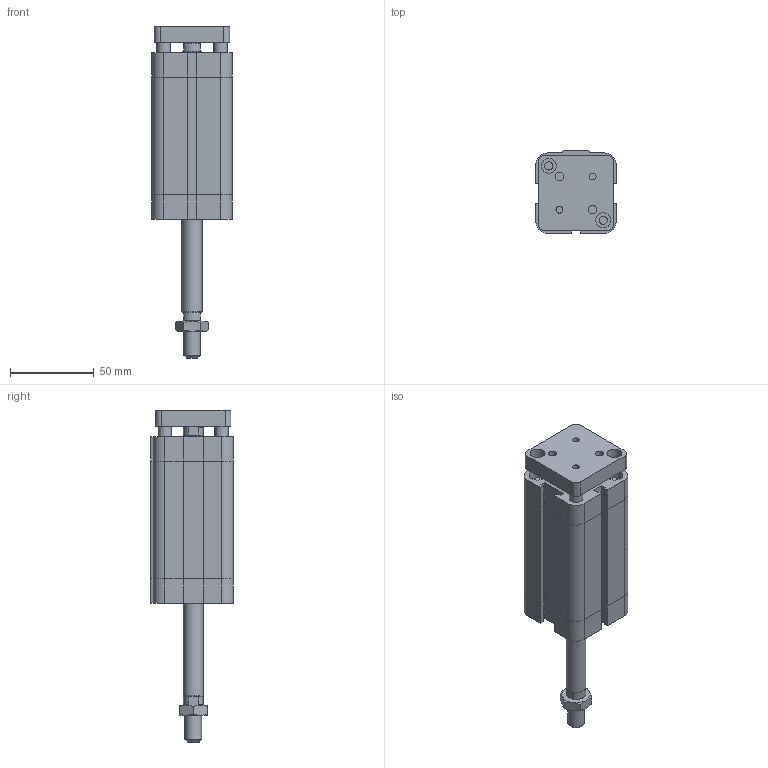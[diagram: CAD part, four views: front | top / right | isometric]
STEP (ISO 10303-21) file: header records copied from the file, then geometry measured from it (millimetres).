
FILE_DESCRIPTION((''),'2;1');
FILE_NAME('I:\Area Tecnica\Disegni\VARIE-3D\Componenti\EUROPE\15##_###_####_09_#\1561_32_0055_09_1.iam.stp','2009-04-20T15:36:14',(''),(''),'Autodesk Inventor 2009','Autodesk Inventor 2009','');
FILE_SCHEMA(('AUTOMOTIVE_DESIGN { 1 0 10303 214 1 1 1 1 }'));
Length unit declared in the file: millimetre
Products named in the file (4): 1561_32_0055_09_1; 1561_32_0055_08_1_C; 1561_32_0055_09_1_SA; DBFM10
Assembly tree (3 placements, depth 2):
  1561_32_0055_09_1
    1561_32_0055_08_1_C
    1561_32_0055_09_1_SA
    DBFM10
Bounding box: 48 x 49.5 x 198.5 mm (x, y, z)
Volume: 238146.2 mm3; surface area: 52661 mm2
Topology: 3 solids, 3 shells, 209 faces, 470 edges, 287 vertices
Faces by surface type: plane 120, bspline 45, cylinder 23, cone 21
Full cylindrical faces by diameter (mm): 8 x2, 8.8 x1, 10 x1, 11.7 x2, 12 x1
Entity records: 5963 total; most frequent: CARTESIAN_POINT 1453, DIRECTION 838, ORIENTED_EDGE 834, EDGE_CURVE 417, AXIS2_PLACEMENT_3D 282, EDGE_LOOP 282, VECTOR 274, LINE 274
